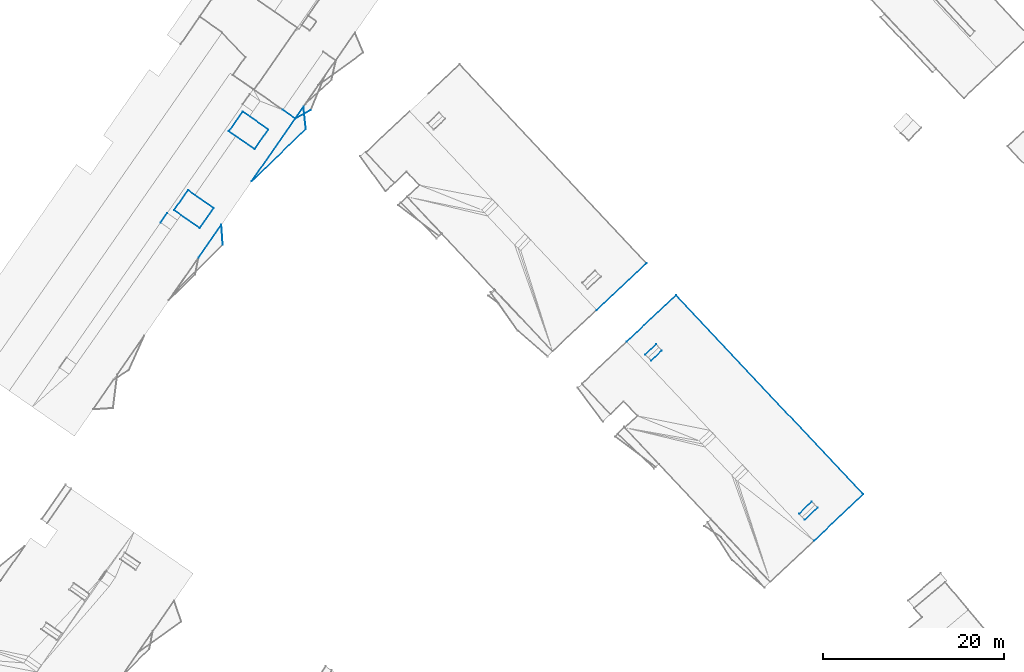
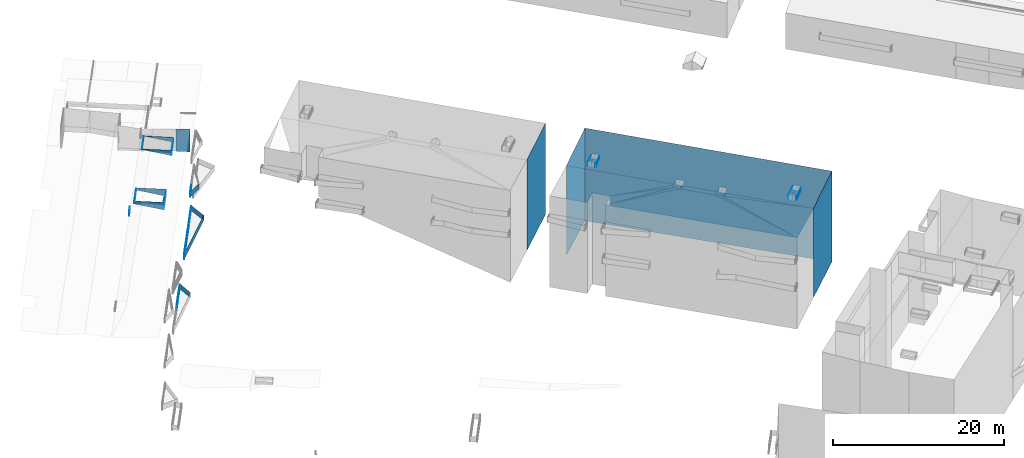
# Not in any storey, part 51 of 136: 31 walls.
"""IFC2X3 building model written with IfcOpenShell, lengths in metres."""

from ifc_helpers import new_model, entity, si_unit, converted_unit, origin, place, context, subcontext, project, spatial, face_set, surface_model, element, save


model = new_model("IFC2X3")

# Units and contexts
model_context = context("Model", 3, precision=1e-05, world=origin())
body_context = subcontext(model_context, "Body", "Model", "MODEL_VIEW")
ifc_project = project(units=[converted_unit("PLANEANGLEUNIT", "DEGREE", entity("IfcRatioMeasure", 0.0174532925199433), si_unit("PLANEANGLEUNIT", "RADIAN"), dimensions=[0, 0, 0, 0, 0, 0, 0]), si_unit("AREAUNIT", "SQUARE_METRE"), si_unit("LENGTHUNIT", "METRE")], contexts=[model_context])

# Site, building
site_placement = place(None, origin())
site = spatial("IfcSite", under=ifc_project, at=site_placement, Name="_site", CompositionType="ELEMENT")
building_1_placement = place(site_placement, origin())
building_1 = spatial("IfcBuilding", under=site, at=building_1_placement, Name="_building", CompositionType="ELEMENT")

# Walls
wall_1_placement = place(building_1_placement, origin())
element("IfcWall", 1, at=wall_1_placement, inside=building_1, Name="Wall", context=body_context, shape_type="SurfaceModel", body=[
    surface_model("IfcFaceBasedSurfaceModel", [(43.33, 92.23, 51.54), (44.73, 93.59, 51.54), (44.73, 93.59, 50.908), (43.33, 92.23, 50.822)], [face_set([[[0, 1, 2, 3]]])]),
])
wall_2_placement = place(building_1_placement, origin())
element("IfcWall", 2, at=wall_2_placement, inside=building_1, Name="Wall", context=body_context, shape_type="SurfaceModel", body=[
    surface_model("IfcFaceBasedSurfaceModel", [(28.2, 110.26, 51.49), (27.02, 109.14, 51.49), (27.02, 109.14, 50.822), (28.2, 110.26, 50.893)], [face_set([[[0, 1, 2, 3]]])]),
])
wall_3_placement = place(building_1_placement, origin())
element("IfcWall", 3, at=wall_3_placement, inside=building_1, Name="Wall", context=body_context, shape_type="SurfaceModel", body=[
    surface_model("IfcFaceBasedSurfaceModel", [(26.38, 109.82, 51.47), (27.56, 110.94, 51.47), (27.56, 110.94, 50.894), (26.38, 109.82, 50.822)], [face_set([[[0, 1, 2, 3]]])]),
])
wall_4_placement = place(building_1_placement, origin())
element("IfcWall", 4, at=wall_4_placement, inside=building_1, Name="Wall", context=body_context, shape_type="SurfaceModel", body=[
    surface_model("IfcFaceBasedSurfaceModel", [(50.43, 94.4, 51.09), (44.98, 89.26, 50.8), (44.98, 89.26, 38.068), (50.43, 94.4, 38.124)], [face_set([[[0, 1, 2, 3]]])]),
])
wall_5_placement = place(building_1_placement, origin())
element("IfcWall", 5, at=wall_5_placement, inside=building_1, Name="Wall", context=body_context, shape_type="SurfaceModel", body=[
    surface_model("IfcFaceBasedSurfaceModel", [(29.77, 116.36, 51.15), (50.43, 94.4, 51.09), (50.43, 94.4, 38.124), (29.77, 116.36, 37.912)], [face_set([[[0, 1, 2, 3]]])]),
])
wall_6_placement = place(building_1_placement, origin())
element("IfcWall", 6, at=wall_6_placement, inside=building_1, Name="Wall", context=body_context, shape_type="SurfaceModel", body=[
    surface_model("IfcFaceBasedSurfaceModel", [(24.31, 111.23, 50.8), (29.77, 116.36, 51.15), (29.77, 116.36, 37.912), (24.31, 111.23, 37.968)], [face_set([[[0, 1, 2, 3]]])]),
])
wall_7_placement = place(building_1_placement, origin())
element("IfcWall", 7, at=wall_7_placement, inside=building_1, Name="Wall", context=body_context, shape_type="SurfaceModel", body=[
    surface_model("IfcFaceBasedSurfaceModel", [(45.38, 92.93, 51.48), (43.98, 91.57, 51.48), (43.98, 91.57, 50.823), (45.38, 92.93, 50.908)], [face_set([[[0, 1, 2, 3]]])]),
])

# Building
building_2_placement = place(site_placement, origin())
building_2 = spatial("IfcBuilding", under=site, at=building_2_placement, Name="_building", CompositionType="ELEMENT")

# Wall
wall_8_placement = place(building_2_placement, origin())
element("IfcWall", 8, at=wall_8_placement, inside=building_2, Name="Wall", context=body_context, shape_type="SurfaceModel", body=[
    surface_model("IfcFaceBasedSurfaceModel", [(26.5, 119.91, 50.83), (20.99, 114.73, 50.65), (20.99, 114.73, 37.701), (26.5, 119.91, 37.779)], [face_set([[[0, 1, 2, 3]]])]),
])

# Building
building_3_placement = place(site_placement, origin())
building_3 = spatial("IfcBuilding", under=site, at=building_3_placement, Name="_building", CompositionType="ELEMENT")

# Walls
wall_9_placement = place(building_3_placement, origin())
element("IfcWall", 9, at=wall_9_placement, inside=building_3, Name="Wall", context=body_context, shape_type="SurfaceModel", body=[
    surface_model("IfcFaceBasedSurfaceModel", [(-12.24, 135.84, 44.17), (-11.34, 137.15, 44.17), (-11.34, 137.15, 44.92), (-12.24, 135.84, 44.92)], [face_set([[[0, 1, 2, 3]]])]),
])
wall_10_placement = place(building_3_placement, origin())
element("IfcWall", 10, at=wall_10_placement, inside=building_3, Name="Wall", context=body_context, shape_type="SurfaceModel", body=[
    surface_model("IfcFaceBasedSurfaceModel", [(-11.08, 134.68, 41.15), (-17.06, 128.92, 41.15), (-17.06, 128.92, 41.9), (-11.08, 134.68, 41.9)], [face_set([[[0, 1, 2, 3]]])]),
])
wall_11_placement = place(building_3_placement, origin())
element("IfcWall", 11, at=wall_11_placement, inside=building_3, Name="Wall", context=body_context, shape_type="SurfaceModel", body=[
    surface_model("IfcFaceBasedSurfaceModel", [(-11.34, 137.15, 41.15), (-11.08, 134.68, 41.15), (-11.08, 134.68, 41.9), (-11.34, 137.15, 41.9)], [face_set([[[0, 1, 2, 3]]])]),
])
wall_12_placement = place(building_3_placement, origin())
element("IfcWall", 12, at=wall_12_placement, inside=building_3, Name="Wall", context=body_context, shape_type="SurfaceModel", body=[
    surface_model("IfcFaceBasedSurfaceModel", [(-17.06, 128.92, 41.15), (-11.34, 137.15, 41.15), (-11.34, 137.15, 41.9), (-17.06, 128.92, 41.9)], [face_set([[[0, 1, 2, 3]]])]),
])
wall_13_placement = place(building_3_placement, origin())
element("IfcWall", 13, at=wall_13_placement, inside=building_3, Name="Wall", context=body_context, shape_type="SurfaceModel", body=[
    surface_model("IfcFaceBasedSurfaceModel", [(-11.08, 134.68, 41.15), (-17.06, 128.92, 41.15), (-17.06, 128.92, 41.9), (-11.08, 134.68, 41.9)], [face_set([[[0, 1, 2, 3]]])]),
])
wall_14_placement = place(building_3_placement, origin())
element("IfcWall", 14, at=wall_14_placement, inside=building_3, Name="Wall", context=body_context, shape_type="SurfaceModel", body=[
    surface_model("IfcFaceBasedSurfaceModel", [(-11.34, 137.15, 41.15), (-11.08, 134.68, 41.15), (-11.08, 134.68, 41.9), (-11.34, 137.15, 41.9)], [face_set([[[0, 1, 2, 3]]])]),
])
wall_15_placement = place(building_3_placement, origin())
element("IfcWall", 15, at=wall_15_placement, inside=building_3, Name="Wall", context=body_context, shape_type="SurfaceModel", body=[
    surface_model("IfcFaceBasedSurfaceModel", [(-17.06, 128.92, 41.15), (-11.34, 137.15, 41.15), (-11.34, 137.15, 41.9), (-17.06, 128.92, 41.9)], [face_set([[[0, 1, 2, 3]]])]),
])
wall_16_placement = place(building_3_placement, origin())
element("IfcWall", 16, at=wall_16_placement, inside=building_3, Name="Wall", context=body_context, shape_type="SurfaceModel", body=[
    surface_model("IfcFaceBasedSurfaceModel", [(-20.4, 124.12, 41.07), (-20.25, 121.92, 41.07), (-20.25, 121.92, 41.82), (-20.4, 124.12, 41.82)], [face_set([[[0, 1, 2, 3]]])]),
])
wall_17_placement = place(building_3_placement, origin())
element("IfcWall", 17, at=wall_17_placement, inside=building_3, Name="Wall", context=body_context, shape_type="SurfaceModel", body=[
    surface_model("IfcFaceBasedSurfaceModel", [(-22.92, 120.5, 41.07), (-20.4, 124.12, 41.07), (-20.4, 124.12, 41.82), (-22.92, 120.5, 41.82)], [face_set([[[0, 1, 2, 3]]])]),
])
wall_18_placement = place(building_3_placement, origin())
element("IfcWall", 18, at=wall_18_placement, inside=building_3, Name="Wall", context=body_context, shape_type="SurfaceModel", body=[
    surface_model("IfcFaceBasedSurfaceModel", [(-20.4, 124.12, 41.07), (-20.25, 121.92, 41.07), (-20.25, 121.92, 41.82), (-20.4, 124.12, 41.82)], [face_set([[[0, 1, 2, 3]]])]),
])
wall_19_placement = place(building_3_placement, origin())
element("IfcWall", 19, at=wall_19_placement, inside=building_3, Name="Wall", context=body_context, shape_type="SurfaceModel", body=[
    surface_model("IfcFaceBasedSurfaceModel", [(-22.92, 120.5, 41.07), (-20.4, 124.12, 41.07), (-20.4, 124.12, 41.82), (-22.92, 120.5, 41.82)], [face_set([[[0, 1, 2, 3]]])]),
])
wall_20_placement = place(building_3_placement, origin())
element("IfcWall", 20, at=wall_20_placement, inside=building_3, Name="Wall", context=body_context, shape_type="SurfaceModel", body=[
    surface_model("IfcFaceBasedSurfaceModel", [(-27.11, 124.38, 54.2), (-26.373, 125.432, 54.2), (-26.373, 125.432, 53.58), (-27.11, 124.38, 53.58)], [face_set([[[0, 1, 2, 3]]])]),
])
wall_21_placement = place(building_3_placement, origin())
element("IfcWall", 21, at=wall_21_placement, inside=building_3, Name="Wall", context=body_context, shape_type="SurfaceModel", body=[
    surface_model("IfcFaceBasedSurfaceModel", [(-22.79, 123.76, 54.46), (-25.62, 125.73, 54.46), (-25.62, 125.73, 54.025), (-22.79, 123.76, 53.384)], [face_set([[[0, 1, 2, 3]]])]),
])
wall_22_placement = place(building_3_placement, origin())
element("IfcWall", 22, at=wall_22_placement, inside=building_3, Name="Wall", context=body_context, shape_type="SurfaceModel", body=[
    surface_model("IfcFaceBasedSurfaceModel", [(-18.05, 136.61, 54.46), (-15.22, 134.64, 54.46), (-15.22, 134.64, 53.813), (-18.05, 136.61, 54.455)], [face_set([[[0, 1, 2, 3]]])]),
])
wall_23_placement = place(building_3_placement, origin())
element("IfcWall", 23, at=wall_23_placement, inside=building_3, Name="Wall", context=body_context, shape_type="SurfaceModel", body=[
    surface_model("IfcFaceBasedSurfaceModel", [(-19.57, 134.43, 54.46), (-18.05, 136.61, 54.46), (-18.05, 136.61, 54.455), (-19.57, 134.43, 54.369)], [face_set([[[0, 1, 2, 3]]])]),
])
wall_24_placement = place(building_3_placement, origin())
element("IfcWall", 24, at=wall_24_placement, inside=building_3, Name="Wall", context=body_context, shape_type="SurfaceModel", body=[
    surface_model("IfcFaceBasedSurfaceModel", [(-13.62, 136.8, 53.826), (-12.24, 135.84, 53.93), (-12.24, 135.84, 50.64), (-13.62, 136.8, 50.64)], [face_set([[[0, 1, 2, 3]]])]),
])
wall_25_placement = place(building_3_placement, origin())
element("IfcWall", 25, at=wall_25_placement, inside=building_3, Name="Wall", context=body_context, shape_type="SurfaceModel", body=[
    surface_model("IfcFaceBasedSurfaceModel", [(-10.54, 136.79, 44.17), (-12.24, 135.84, 44.17), (-12.24, 135.84, 44.92), (-10.54, 136.79, 44.92)], [face_set([[[0, 1, 2, 3]]])]),
])
wall_26_placement = place(building_3_placement, origin())
element("IfcWall", 26, at=wall_26_placement, inside=building_3, Name="Wall", context=body_context, shape_type="SurfaceModel", body=[
    surface_model("IfcFaceBasedSurfaceModel", [(-12.24, 135.84, 44.17), (-11.34, 137.15, 44.17), (-11.34, 137.15, 44.92), (-12.24, 135.84, 44.92)], [face_set([[[0, 1, 2, 3]]])]),
])
wall_27_placement = place(building_3_placement, origin())
element("IfcWall", 27, at=wall_27_placement, inside=building_3, Name="Wall", context=body_context, shape_type="SurfaceModel", body=[
    surface_model("IfcFaceBasedSurfaceModel", [(-16.73, 132.46, 54.46), (-19.57, 134.43, 54.46), (-19.57, 134.43, 54.369), (-16.73, 132.46, 53.726)], [face_set([[[0, 1, 2, 3]]])]),
])
wall_28_placement = place(building_3_placement, origin())
element("IfcWall", 28, at=wall_28_placement, inside=building_3, Name="Wall", context=body_context, shape_type="SurfaceModel", body=[
    surface_model("IfcFaceBasedSurfaceModel", [(-25.62, 125.73, 54.46), (-24.08, 127.94, 54.46), (-24.08, 127.94, 54.112), (-25.62, 125.73, 54.025)], [face_set([[[0, 1, 2, 3]]])]),
])
wall_29_placement = place(building_3_placement, origin())
element("IfcWall", 29, at=wall_29_placement, inside=building_3, Name="Wall", context=body_context, shape_type="SurfaceModel", body=[
    surface_model("IfcFaceBasedSurfaceModel", [(-21.25, 125.96, 54.46), (-22.79, 123.76, 54.46), (-22.79, 123.76, 53.384), (-21.25, 125.96, 53.469)], [face_set([[[0, 1, 2, 3]]])]),
])
wall_30_placement = place(building_3_placement, origin())
element("IfcWall", 30, at=wall_30_placement, inside=building_3, Name="Wall", context=body_context, shape_type="SurfaceModel", body=[
    surface_model("IfcFaceBasedSurfaceModel", [(-24.08, 127.94, 54.46), (-21.25, 125.96, 54.46), (-21.25, 125.96, 53.469), (-24.08, 127.94, 54.112)], [face_set([[[0, 1, 2, 3]]])]),
])
wall_31_placement = place(building_3_placement, origin())
element("IfcWall", 31, at=wall_31_placement, inside=building_3, Name="Wall", context=body_context, shape_type="SurfaceModel", body=[
    surface_model("IfcFaceBasedSurfaceModel", [(-15.22, 134.64, 54.46), (-16.73, 132.46, 54.46), (-16.73, 132.46, 53.726), (-15.22, 134.64, 53.813)], [face_set([[[0, 1, 2, 3]]])]),
])

save(model, "model.ifc")
